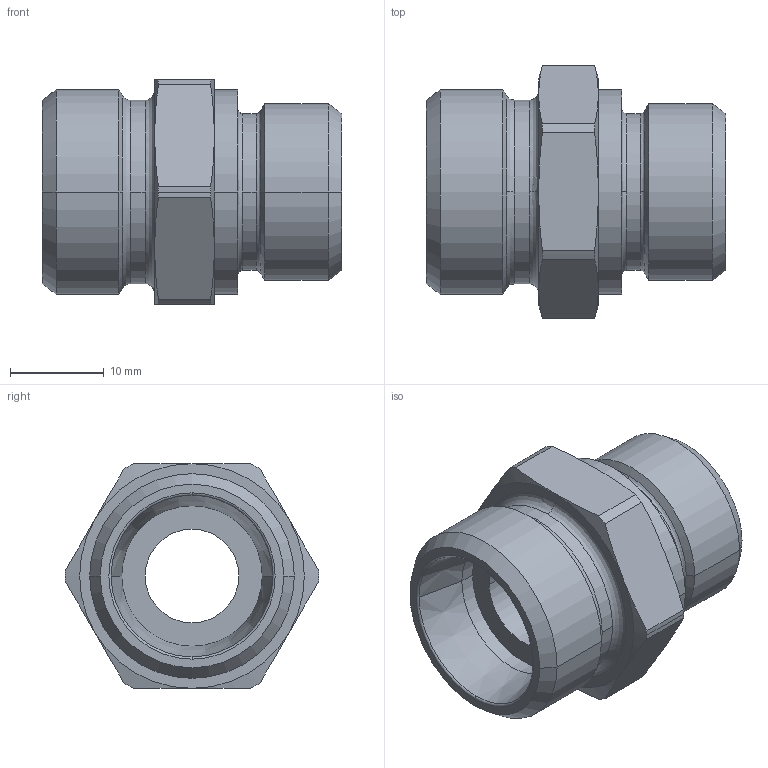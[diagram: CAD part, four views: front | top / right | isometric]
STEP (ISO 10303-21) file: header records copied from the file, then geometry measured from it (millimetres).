
FILE_DESCRIPTION((''),'2;1');
FILE_NAME('100908.stp','2007-10-30T15:29:47',(''),(''),'AutoCAD STEP 2000i','AutoCAD 2000i',', , ');
FILE_SCHEMA(('CONFIG_CONTROL_DESIGN'));
Length unit declared in the file: millimetre
Products named in the file (2): 100908.0; CHIAVE SMUSSATA#0
Assembly tree (1 placements, depth 2):
  100908.0
    CHIAVE SMUSSATA#0
Bounding box: 32 x 27.1 x 24 mm (x, y, z)
Volume: 7833.6 mm3; surface area: 4080.5 mm2
Topology: 1 solids, 1 shells, 68 faces, 165 edges, 103 vertices
Faces by surface type: cone 24, cylinder 22, plane 12, bspline 8, torus 2
Entity records: 2431 total; most frequent: CARTESIAN_POINT 738, DIRECTION 366, ORIENTED_EDGE 330, EDGE_CURVE 165, AXIS2_PLACEMENT_3D 163, VERTEX_POINT 103, CIRCLE 101, EDGE_LOOP 74
